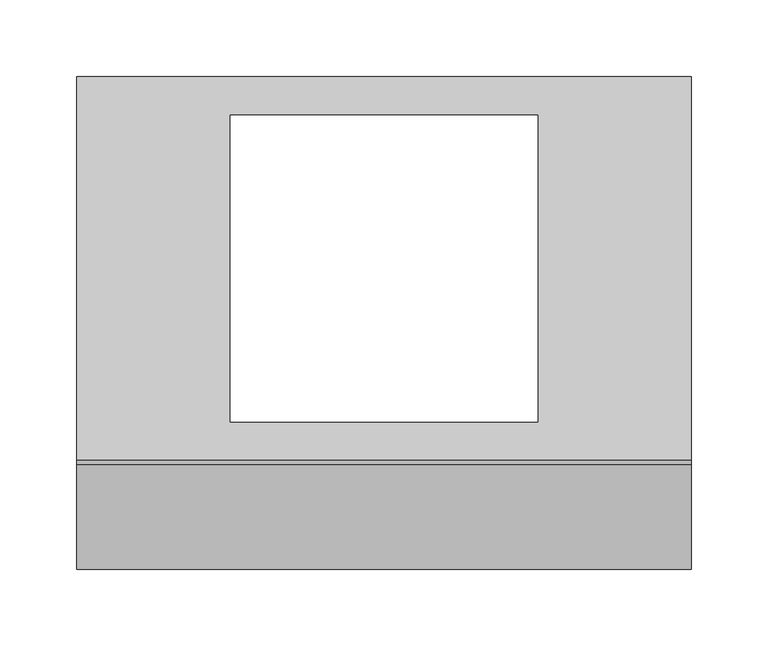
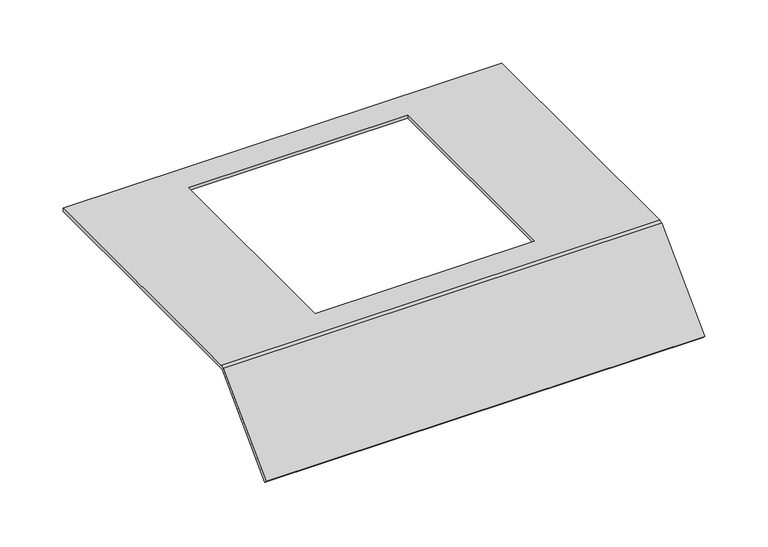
"""IFC4 building model written with IfcOpenShell, lengths in millimetres: proxy geometry, Electrical_Installation_Hager_Covers-With-Installation-Opening-Q06 : Electrical_Installation_Hager_Covers-With-Installation-Opening-Q06."""

from ifc_helpers import new_model, si_unit, frame, origin, place, context, project, spatial, polyline, circle_curve, source, transform, mapped, element, save
from ifc_brep_helpers import plane_surface, cylinder_surface, revolved_surface, advanced_brep


def electrical_fixtures_be977d01(model_context):
    return source(origin(), model_context, "Body", "AdvancedBrep", [
        advanced_brep(
        [(0.0, 125.0, 40.5), (0.0, 125.0, 37.5), (0.0, -124.8229541, 37.5), (0.0, -125.8322972, 37.0819164), (0.0, -193.712807, -30.7985934), (0.0, -195.8341273, -28.6772731), (0.0, -127.8206472, 39.336207), (0.0, -125.0110025, 40.5), (400.0, 125.0, 40.5), (400.0, -125.0110025, 40.5), (400.0, -127.8206472, 39.336207), (400.0, -195.8341273, -28.6772731), (400.0, -193.712807, -30.7985934), (400.0, -125.8322972, 37.0819164), (400.0, -124.8229541, 37.5), (400.0, 125.0, 37.5), (300.0, 100.0, 37.5), (100.0, 100.0, 37.5), (100.0, -100.0, 37.5), (300.0, -100.0, 37.5), (100.0, 100.0, 40.5), (300.0, 100.0, 40.5), (300.0, -100.0, 40.5), (100.0, -100.0, 40.5)],
        [
            (0, 1),
            (1, 2),
            (2, 3, circle_curve(frame((0.0, -124.8229541, 36.0725733), z_axis=(1.0, 0.0, 0.0), x_axis=(0.0, 1.0, 0.0)), 1.4274267)),
            (3, 4),
            (4, 5),
            (5, 6),
            (6, 7, circle_curve(frame((0.0, -125.0110025, 36.5265623), z_axis=(-1.0, 0.0, 0.0), x_axis=(0.0, 1.0, 0.0)), 3.9734377)),
            (7, 0),
            (8, 9),
            (9, 10, circle_curve(frame((400.0, -125.0110025, 36.5265623), z_axis=(1.0, 0.0, 0.0), x_axis=(0.0, 1.0, 0.0)), 3.9734377)),
            (10, 11),
            (11, 12),
            (12, 13),
            (13, 14, circle_curve(frame((400.0, -124.8229541, 36.0725733), z_axis=(-1.0, 0.0, 0.0), x_axis=(0.0, 1.0, 0.0)), 1.4274267)),
            (14, 15),
            (15, 8),
            (0, 8),
            (15, 1),
            (14, 2),
            (16, 17),
            (17, 18),
            (18, 19),
            (19, 16),
            (13, 3),
            (12, 4),
            (11, 5),
            (10, 6),
            (9, 7),
            (20, 21),
            (21, 22),
            (22, 23),
            (23, 20),
            (16, 21),
            (20, 17),
            (23, 18),
            (22, 19),
        ],
        [
            plane_surface(frame((0.0, 0.3269864, 15.0), z_axis=(-1.0, 0.0, 0.0), x_axis=(0.0, 0.0, 1.0))),
            plane_surface(frame((400.0, 0.3269864, 15.0), z_axis=(1.0, 0.0, 0.0), x_axis=(0.0, 0.0, 1.0))),
            plane_surface(frame((0.0, 125.0, 40.5), z_axis=(0.0, 1.0, 0.0), x_axis=(1.0, 0.0, 0.0))),
            plane_surface(frame((0.0, 125.0, 37.5), z_axis=(0.0, 0.0, -1.0), x_axis=(1.0, 0.0, 0.0))),
            revolved_surface(polyline([(400.0, -123.3955274, 36.0725733), (0.0, -123.3955274, 36.0725733)]), (0.0, -124.8229541, 36.0725733), (1.0, 0.0, 0.0)),
            plane_surface(frame((0.0, -125.8322972, 37.0819164), z_axis=(0.0, 0.7071067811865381, -0.707106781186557), x_axis=(1.0, 0.0, 0.0))),
            plane_surface(frame((0.0, -193.712807, -30.7985934), z_axis=(0.0, -0.7071067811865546, -0.7071067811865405), x_axis=(1.0, 0.0, 0.0))),
            plane_surface(frame((0.0, -195.8341273, -28.6772731), z_axis=(0.0, -0.7071067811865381, 0.707106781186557), x_axis=(1.0, 0.0, 0.0))),
            cylinder_surface(frame((0.0, -125.0110025, 36.5265623), z_axis=(-1.0, 0.0, 0.0), x_axis=(0.0, 1.0, 0.0)), 3.9734377),
            plane_surface(frame((0.0, -125.0110025, 40.5), z_axis=(0.0, 0.0, 1.0), x_axis=(1.0, 0.0, 0.0))),
            plane_surface(frame((300.0, 100.0, 250.0), z_axis=(0.0, -1.0, 0.0), x_axis=(0.0, 0.0, -1.0))),
            plane_surface(frame((100.0, 100.0, 250.0), z_axis=(1.0, 0.0, 0.0), x_axis=(0.0, 0.0, -1.0))),
            plane_surface(frame((100.0, -100.0, 250.0), z_axis=(0.0, 1.0, 0.0), x_axis=(0.0, 0.0, -1.0))),
            plane_surface(frame((300.0, -100.0, 250.0), z_axis=(-1.0, 0.0, 0.0), x_axis=(0.0, 0.0, -1.0))),
        ],
        [
            (0, [[1, 2, 3, 4, 5, 6, 7, 8]]),
            (1, [[9, 10, 11, 12, 13, 14, 15, 16]]),
            (2, [[-1, 17, -16, 18]]),
            (3, [[-2, -18, -15, 19], [20, 21, 22, 23]]),
            (4, [[-3, -19, -14, 24]]),
            (5, [[-4, -24, -13, 25]]),
            (6, [[-5, -25, -12, 26]]),
            (7, [[-6, -26, -11, 27]]),
            (8, [[-7, -27, -10, 28]]),
            (9, [[-8, -28, -9, -17], [29, 30, 31, 32]]),
            (10, [[33, -29, 34, -20]]),
            (11, [[-34, -32, 35, -21]]),
            (12, [[-35, -31, 36, -22]]),
            (13, [[-33, -23, -36, -30]]),
        ],
    ),
    ])


if __name__ == "__main__":
    model = new_model("IFC4")
    model_context = context("Model", 3, world=origin())
    ifc_project = project(units=[si_unit("LENGTHUNIT", "METRE", prefix="MILLI")], contexts=[model_context])
    site = spatial("IfcSite", under=ifc_project)
    building = spatial("IfcBuilding", under=site)
    placement = place(None, origin())
    electrical_fixtures_shape = electrical_fixtures_be977d01(model_context)
    element("IfcBuildingElementProxy", 1, Name="Electrical_Installation_Hager_Covers-With-Installation-Opening-Q06 : Electrical_Installation_Hager_Covers-With-Installation-Opening-Q06", ObjectType="Electrical_Installation_Hager_Covers-With-Installation-Opening-Q06 : Electrical_Installation_Hager_Covers-With-Installation-Opening-Q06", at=placement, inside=building, context=model_context, shape_type="MappedRepresentation", body=[
        mapped(electrical_fixtures_shape, transform((0.0, 0.0, 0.0), x_axis=(1.0, 0.0, 0.0), y_axis=(0.0, 1.0, 0.0), z_axis=(0.0, 0.0, 1.0))),
    ])
    save(model, "model.ifc")
